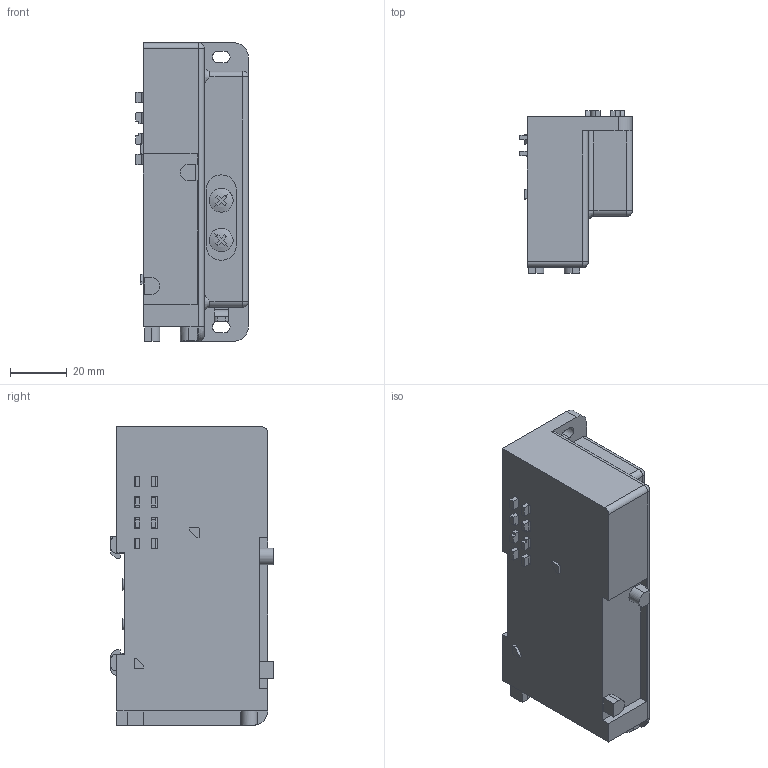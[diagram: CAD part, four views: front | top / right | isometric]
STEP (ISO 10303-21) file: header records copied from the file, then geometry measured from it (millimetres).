
FILE_DESCRIPTION( (''), '2;1');
FILE_NAME ('CVICAD02.5208.F15ZX-RN-DN_21462.stp','2021-07-12T19:12:39',(''),(''),'spGate 12.6.6','','');
FILE_SCHEMA (('AUTOMOTIVE_DESIGN'));
Length unit declared in the file: millimetre
Bounding box: 39.6 x 57.2 x 105 mm (x, y, z)
Volume: 154384.2 mm3; surface area: 23629.6 mm2
Topology: 1 solids, 1 shells, 324 faces, 877 edges, 578 vertices
Faces by surface type: plane 234, cylinder 76, bspline 7, sphere 7
Entity records: 17180 total; most frequent: CARTESIAN_POINT 1952, ORIENTED_EDGE 1748, DIRECTION 1678, COLOUR_RGB 1199, PRESENTATION_STYLE_ASSIGNMENT 1199, STYLED_ITEM 1199, EDGE_CURVE 874, DRAUGHTING_PRE_DEFINED_CURVE_FONT 874
